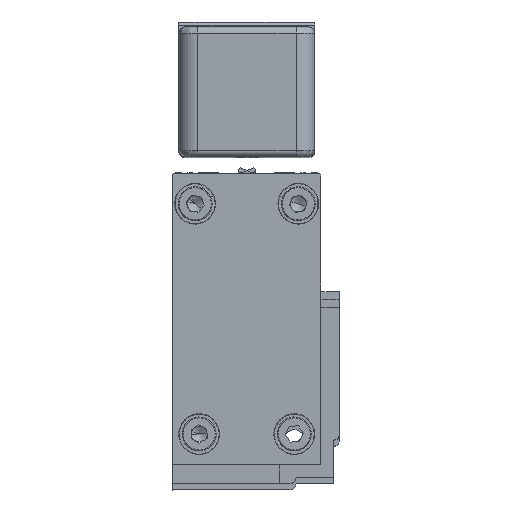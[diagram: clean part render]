
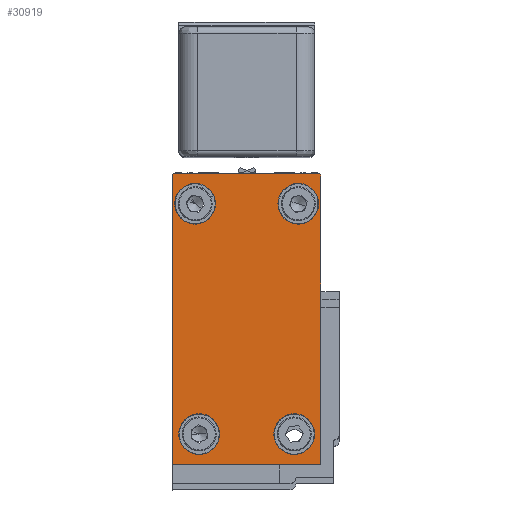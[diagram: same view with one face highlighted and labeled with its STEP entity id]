
A CAD part, top view. The second image highlights one B-rep face of the part: STEP entity #30919.
In plain terms, the highlighted planar face has unit normal (0, 0, 1).
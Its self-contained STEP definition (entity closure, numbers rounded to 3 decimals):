
#48 = DIRECTION ( 'NONE',  ( -1., 0., 0. ) ) ;
#248 = DIRECTION ( 'NONE',  ( 0., 0., -1. ) ) ;
#848 = PLANE ( 'NONE',  #18410 ) ;
#1199 = EDGE_CURVE ( 'NONE', #5296, #4358, #11471, .T. ) ;
#1256 = CARTESIAN_POINT ( 'NONE',  ( 5.984, -20.888, 3185. ) ) ;
#1743 = CIRCLE ( 'NONE', #31837, 3.302 ) ;
#2118 = VERTEX_POINT ( 'NONE', #12702 ) ;
#2447 = CARTESIAN_POINT ( 'NONE',  ( 5.984, -20.888, 3185. ) ) ;
#2670 = CARTESIAN_POINT ( 'NONE',  ( 5.485, 26.371, 3185. ) ) ;
#3270 = CARTESIAN_POINT ( 'NONE',  ( -10.412, -15.887, 3185. ) ) ;
#3351 = VERTEX_POINT ( 'NONE', #3270 ) ;
#3630 = ORIENTED_EDGE ( 'NONE', *, *, #24978, .T. ) ;
#3888 = ORIENTED_EDGE ( 'NONE', *, *, #14958, .T. ) ;
#3938 = EDGE_CURVE ( 'NONE', #9332, #31277, #5124, .T. ) ;
#4244 = CARTESIAN_POINT ( 'NONE',  ( 2.335, 21.401, 3185. ) ) ;
#4358 = VERTEX_POINT ( 'NONE', #17716 ) ;
#4425 = CIRCLE ( 'NONE', #18857, 3.302 ) ;
#4868 = FACE_OUTER_BOUND ( 'NONE', #8824, .T. ) ;
#4872 = EDGE_CURVE ( 'NONE', #6598, #3351, #15916, .T. ) ;
#4891 = AXIS2_PLACEMENT_3D ( 'NONE', #15565, #248, #18121 ) ;
#4914 = CARTESIAN_POINT ( 'NONE',  ( 5.984, 7.11, 3185. ) ) ;
#5078 = CARTESIAN_POINT ( 'NONE',  ( -14.365, 21.401, 3185. ) ) ;
#5124 = CIRCLE ( 'NONE', #28973, 3.302 ) ;
#5201 = AXIS2_PLACEMENT_3D ( 'NONE', #30029, #14790, #32617 ) ;
#5296 = VERTEX_POINT ( 'NONE', #20957 ) ;
#5396 = VERTEX_POINT ( 'NONE', #26973 ) ;
#6089 = CARTESIAN_POINT ( 'NONE',  ( -18.014, -20.888, 3185. ) ) ;
#6120 = DIRECTION ( 'NONE',  ( 0., 1., 0. ) ) ;
#6156 = EDGE_LOOP ( 'NONE', ( #30653, #12508 ) ) ;
#6397 = CIRCLE ( 'NONE', #5201, 3.302 ) ;
#6432 = CARTESIAN_POINT ( 'NONE',  ( -18.014, -20.888, 3185. ) ) ;
#6498 = ORIENTED_EDGE ( 'NONE', *, *, #11169, .T. ) ;
#6598 = VERTEX_POINT ( 'NONE', #18113 ) ;
#6797 = DIRECTION ( 'NONE',  ( -1., 0., 0. ) ) ;
#7627 = DIRECTION ( 'NONE',  ( -1., 0., 0. ) ) ;
#8223 = VECTOR ( 'NONE', #6120, 1000. ) ;
#8277 = CARTESIAN_POINT ( 'NONE',  ( 2.335, 21.401, 3185. ) ) ;
#8643 = DIRECTION ( 'NONE',  ( -1., 0., 0. ) ) ;
#8705 = VECTOR ( 'NONE', #24315, 1000. ) ;
#8791 = CARTESIAN_POINT ( 'NONE',  ( 5.984, 7.11, 3185. ) ) ;
#8824 = EDGE_LOOP ( 'NONE', ( #9598, #6498, #30494, #12129, #27620, #3630, #32689 ) ) ;
#8866 = DIRECTION ( 'NONE',  ( 0., 0., -1. ) ) ;
#9332 = VERTEX_POINT ( 'NONE', #11528 ) ;
#9598 = ORIENTED_EDGE ( 'NONE', *, *, #20578, .T. ) ;
#10019 = CARTESIAN_POINT ( 'NONE',  ( 5.485, 26.371, 3185. ) ) ;
#10024 = DIRECTION ( 'NONE',  ( 0., 0., -1. ) ) ;
#10575 = EDGE_CURVE ( 'NONE', #29663, #4358, #25064, .T. ) ;
#10667 = AXIS2_PLACEMENT_3D ( 'NONE', #29192, #13947, #31794 ) ;
#10822 = DIRECTION ( 'NONE',  ( -1., 0., 0. ) ) ;
#11169 = EDGE_CURVE ( 'NONE', #32080, #25339, #28573, .T. ) ;
#11471 = CIRCLE ( 'NONE', #20964, 0.5 ) ;
#11528 = CARTESIAN_POINT ( 'NONE',  ( -17.667, 21.401, 3185. ) ) ;
#11643 = FACE_BOUND ( 'NONE', #25194, .T. ) ;
#11802 = CARTESIAN_POINT ( 'NONE',  ( -18.014, -20.888, 3185. ) ) ;
#12129 = ORIENTED_EDGE ( 'NONE', *, *, #10575, .T. ) ;
#12298 = CIRCLE ( 'NONE', #25966, 3.302 ) ;
#12387 = VERTEX_POINT ( 'NONE', #2447 ) ;
#12508 = ORIENTED_EDGE ( 'NONE', *, *, #22311, .T. ) ;
#12702 = CARTESIAN_POINT ( 'NONE',  ( 4.978, -15.887, 3185. ) ) ;
#13637 = DIRECTION ( 'NONE',  ( 0., 0., -1. ) ) ;
#13947 = DIRECTION ( 'NONE',  ( 0., 0., 1. ) ) ;
#14123 = ORIENTED_EDGE ( 'NONE', *, *, #18947, .T. ) ;
#14790 = DIRECTION ( 'NONE',  ( 0., 0., -1. ) ) ;
#14958 = EDGE_CURVE ( 'NONE', #20715, #21019, #12298, .T. ) ;
#15372 = DIRECTION ( 'NONE',  ( 0., 0., -1. ) ) ;
#15565 = CARTESIAN_POINT ( 'NONE',  ( 1.676, -15.887, 3185. ) ) ;
#15600 = EDGE_CURVE ( 'NONE', #30366, #12387, #28254, .T. ) ;
#15916 = CIRCLE ( 'NONE', #29215, 3.302 ) ;
#16874 = LINE ( 'NONE', #26505, #23673 ) ;
#17311 = LINE ( 'NONE', #1256, #23308 ) ;
#17653 = CARTESIAN_POINT ( 'NONE',  ( 5.637, 21.401, 3185. ) ) ;
#17677 = CIRCLE ( 'NONE', #4891, 3.302 ) ;
#17716 = CARTESIAN_POINT ( 'NONE',  ( -17.514, 26.371, 3185. ) ) ;
#18113 = CARTESIAN_POINT ( 'NONE',  ( -17.017, -15.887, 3185. ) ) ;
#18121 = DIRECTION ( 'NONE',  ( -1., 0., 0. ) ) ;
#18410 = AXIS2_PLACEMENT_3D ( 'NONE', #6089, #23978, #8643 ) ;
#18460 = FACE_BOUND ( 'NONE', #6156, .T. ) ;
#18857 = AXIS2_PLACEMENT_3D ( 'NONE', #8277, #26138, #10822 ) ;
#18947 = EDGE_CURVE ( 'NONE', #2118, #5396, #17677, .T. ) ;
#19140 = DIRECTION ( 'NONE',  ( 0., 1., 0. ) ) ;
#19439 = ORIENTED_EDGE ( 'NONE', *, *, #25950, .T. ) ;
#20036 = FACE_BOUND ( 'NONE', #21554, .T. ) ;
#20433 = DIRECTION ( 'NONE',  ( -1., 0., 0. ) ) ;
#20578 = EDGE_CURVE ( 'NONE', #12387, #32080, #17311, .T. ) ;
#20715 = VERTEX_POINT ( 'NONE', #29564 ) ;
#20810 = ORIENTED_EDGE ( 'NONE', *, *, #31603, .T. ) ;
#20957 = CARTESIAN_POINT ( 'NONE',  ( -18.014, 25.871, 3185. ) ) ;
#20964 = AXIS2_PLACEMENT_3D ( 'NONE', #28895, #13637, #31484 ) ;
#21019 = VERTEX_POINT ( 'NONE', #17653 ) ;
#21554 = EDGE_LOOP ( 'NONE', ( #19439, #14123 ) ) ;
#21700 = CIRCLE ( 'NONE', #10667, 0.5 ) ;
#22088 = DIRECTION ( 'NONE',  ( 0., 0., -1. ) ) ;
#22311 = EDGE_CURVE ( 'NONE', #3351, #6598, #23937, .T. ) ;
#22483 = CARTESIAN_POINT ( 'NONE',  ( -11.063, 21.401, 3185. ) ) ;
#22923 = DIRECTION ( 'NONE',  ( 0., 0., -1. ) ) ;
#23308 = VECTOR ( 'NONE', #19140, 1000. ) ;
#23673 = VECTOR ( 'NONE', #26280, 1000. ) ;
#23937 = CIRCLE ( 'NONE', #33057, 3.302 ) ;
#23978 = DIRECTION ( 'NONE',  ( 0., 0., 1. ) ) ;
#24209 = CARTESIAN_POINT ( 'NONE',  ( -13.714, -15.887, 3185. ) ) ;
#24315 = DIRECTION ( 'NONE',  ( 1., 0., 0. ) ) ;
#24694 = EDGE_CURVE ( 'NONE', #25339, #29663, #21700, .T. ) ;
#24978 = EDGE_CURVE ( 'NONE', #5296, #30366, #16874, .T. ) ;
#25064 = LINE ( 'NONE', #10019, #31026 ) ;
#25194 = EDGE_LOOP ( 'NONE', ( #3888, #20810 ) ) ;
#25244 = FACE_BOUND ( 'NONE', #28888, .T. ) ;
#25339 = VERTEX_POINT ( 'NONE', #33097 ) ;
#25353 = CARTESIAN_POINT ( 'NONE',  ( -14.365, 21.401, 3185. ) ) ;
#25950 = EDGE_CURVE ( 'NONE', #5396, #2118, #6397, .T. ) ;
#25966 = AXIS2_PLACEMENT_3D ( 'NONE', #4244, #22088, #6797 ) ;
#26138 = DIRECTION ( 'NONE',  ( 0., 0., -1. ) ) ;
#26280 = DIRECTION ( 'NONE',  ( 0., -1., 0. ) ) ;
#26505 = CARTESIAN_POINT ( 'NONE',  ( -18.014, 25.871, 3185. ) ) ;
#26748 = DIRECTION ( 'NONE',  ( -1., 0., 0. ) ) ;
#26973 = CARTESIAN_POINT ( 'NONE',  ( -1.626, -15.887, 3185. ) ) ;
#27186 = ORIENTED_EDGE ( 'NONE', *, *, #3938, .T. ) ;
#27620 = ORIENTED_EDGE ( 'NONE', *, *, #1199, .F. ) ;
#27889 = DIRECTION ( 'NONE',  ( -1., 0., 0. ) ) ;
#28254 = LINE ( 'NONE', #6432, #8705 ) ;
#28573 = LINE ( 'NONE', #8791, #8223 ) ;
#28888 = EDGE_LOOP ( 'NONE', ( #27186, #29887 ) ) ;
#28895 = CARTESIAN_POINT ( 'NONE',  ( -17.514, 25.871, 3185. ) ) ;
#28973 = AXIS2_PLACEMENT_3D ( 'NONE', #5078, #22923, #7627 ) ;
#29192 = CARTESIAN_POINT ( 'NONE',  ( 5.485, 25.871, 3185. ) ) ;
#29215 = AXIS2_PLACEMENT_3D ( 'NONE', #30620, #15372, #48 ) ;
#29564 = CARTESIAN_POINT ( 'NONE',  ( -0.967, 21.401, 3185. ) ) ;
#29663 = VERTEX_POINT ( 'NONE', #2670 ) ;
#29887 = ORIENTED_EDGE ( 'NONE', *, *, #29914, .T. ) ;
#29914 = EDGE_CURVE ( 'NONE', #31277, #9332, #1743, .T. ) ;
#30029 = CARTESIAN_POINT ( 'NONE',  ( 1.676, -15.887, 3185. ) ) ;
#30366 = VERTEX_POINT ( 'NONE', #11802 ) ;
#30494 = ORIENTED_EDGE ( 'NONE', *, *, #24694, .T. ) ;
#30620 = CARTESIAN_POINT ( 'NONE',  ( -13.714, -15.887, 3185. ) ) ;
#30653 = ORIENTED_EDGE ( 'NONE', *, *, #4872, .T. ) ;
#30919 = ADVANCED_FACE ( 'NONE', ( #25244, #11643, #20036, #18460, #4868 ), #848, .T. ) ;
#31026 = VECTOR ( 'NONE', #20433, 1000. ) ;
#31277 = VERTEX_POINT ( 'NONE', #22483 ) ;
#31484 = DIRECTION ( 'NONE',  ( 0., 1., 0. ) ) ;
#31603 = EDGE_CURVE ( 'NONE', #21019, #20715, #4425, .T. ) ;
#31794 = DIRECTION ( 'NONE',  ( 0., 1., 0. ) ) ;
#31837 = AXIS2_PLACEMENT_3D ( 'NONE', #25353, #10024, #27889 ) ;
#32080 = VERTEX_POINT ( 'NONE', #4914 ) ;
#32617 = DIRECTION ( 'NONE',  ( -1., 0., 0. ) ) ;
#32689 = ORIENTED_EDGE ( 'NONE', *, *, #15600, .T. ) ;
#33057 = AXIS2_PLACEMENT_3D ( 'NONE', #24209, #8866, #26748 ) ;
#33097 = CARTESIAN_POINT ( 'NONE',  ( 5.984, 25.871, 3185. ) ) ;
